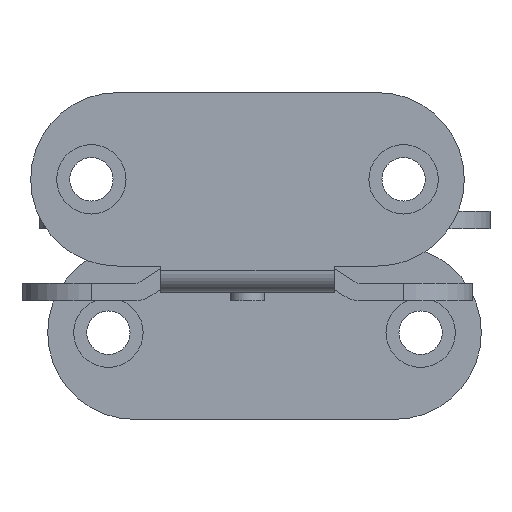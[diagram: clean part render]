
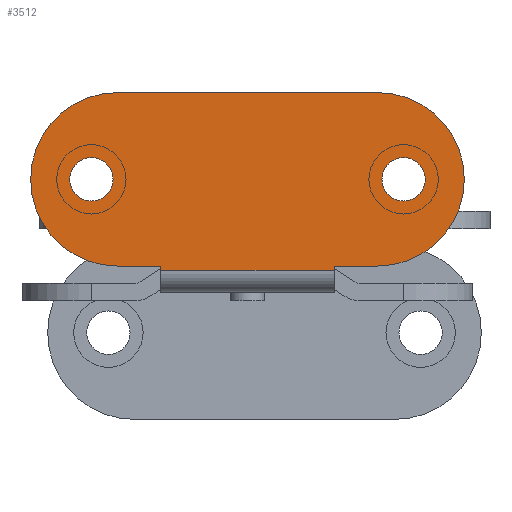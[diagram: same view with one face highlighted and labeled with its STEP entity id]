
A CAD part, left-side view. The second image highlights one B-rep face of the part: STEP entity #3512.
In plain terms, the highlighted planar face has unit normal (-1, 0, 0) as drawn and (0, 0, -1) by its records, which use the part's own axes.
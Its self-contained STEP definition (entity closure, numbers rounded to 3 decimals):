
#212=PLANE('',#3751);
#322=LINE('',#5267,#604);
#326=LINE('',#5279,#608);
#333=LINE('',#5307,#615);
#334=LINE('',#5310,#616);
#339=LINE('',#5319,#621);
#342=LINE('',#5333,#624);
#604=VECTOR('',#4155,20.);
#608=VECTOR('',#4167,0.5);
#615=VECTOR('',#4198,0.5);
#616=VECTOR('',#4201,5.);
#621=VECTOR('',#4208,5.);
#624=VECTOR('',#4225,30.);
#891=FACE_BOUND('',#1206,.T.);
#892=FACE_BOUND('',#1207,.T.);
#986=FACE_OUTER_BOUND('',#1205,.T.);
#1205=EDGE_LOOP('',(#2546,#2547,#2548,#2549,#2550,#2551,#2552,#2553));
#1206=EDGE_LOOP('',(#2554));
#1207=EDGE_LOOP('',(#2555));
#1484=CIRCLE('',#3733,2.5);
#1487=CIRCLE('',#3738,2.5);
#1488=CIRCLE('',#3744,10.);
#1490=CIRCLE('',#3747,10.);
#1669=VERTEX_POINT('',#5264);
#1670=VERTEX_POINT('',#5266);
#1674=VERTEX_POINT('',#5278);
#1678=VERTEX_POINT('',#5290);
#1681=VERTEX_POINT('',#5298);
#1683=VERTEX_POINT('',#5305);
#1684=VERTEX_POINT('',#5309);
#1687=VERTEX_POINT('',#5317);
#1688=VERTEX_POINT('',#5321);
#1690=VERTEX_POINT('',#5327);
#2008=EDGE_CURVE('',#1669,#1670,#322,.T.);
#2014=EDGE_CURVE('',#1670,#1674,#326,.T.);
#2020=EDGE_CURVE('',#1678,#1678,#1484,.T.);
#2023=EDGE_CURVE('',#1681,#1681,#1487,.T.);
#2027=EDGE_CURVE('',#1683,#1669,#333,.T.);
#2028=EDGE_CURVE('',#1674,#1684,#334,.T.);
#2033=EDGE_CURVE('',#1687,#1683,#339,.T.);
#2034=EDGE_CURVE('',#1684,#1688,#1488,.T.);
#2037=EDGE_CURVE('',#1690,#1687,#1490,.T.);
#2040=EDGE_CURVE('',#1688,#1690,#342,.T.);
#2546=ORIENTED_EDGE('',*,*,#2008,.F.);
#2547=ORIENTED_EDGE('',*,*,#2027,.F.);
#2548=ORIENTED_EDGE('',*,*,#2033,.F.);
#2549=ORIENTED_EDGE('',*,*,#2037,.F.);
#2550=ORIENTED_EDGE('',*,*,#2040,.F.);
#2551=ORIENTED_EDGE('',*,*,#2034,.F.);
#2552=ORIENTED_EDGE('',*,*,#2028,.F.);
#2553=ORIENTED_EDGE('',*,*,#2014,.F.);
#2554=ORIENTED_EDGE('',*,*,#2020,.T.);
#2555=ORIENTED_EDGE('',*,*,#2023,.T.);
#3512=ADVANCED_FACE('',(#986,#891,#892),#212,.F.);
#3733=AXIS2_PLACEMENT_3D('',#5291,#4179,#4180);
#3738=AXIS2_PLACEMENT_3D('',#5299,#4189,#4190);
#3744=AXIS2_PLACEMENT_3D('',#5322,#4211,#4212);
#3747=AXIS2_PLACEMENT_3D('',#5328,#4218,#4219);
#3751=AXIS2_PLACEMENT_3D('',#5336,#4229,#4230);
#4155=DIRECTION('',(-1.,0.,0.));
#4167=DIRECTION('',(0.,-1.,0.));
#4179=DIRECTION('center_axis',(0.,0.,1.));
#4180=DIRECTION('ref_axis',(1.,0.,0.));
#4189=DIRECTION('center_axis',(0.,0.,1.));
#4190=DIRECTION('ref_axis',(1.,0.,0.));
#4198=DIRECTION('',(0.,1.,0.));
#4201=DIRECTION('',(-1.,0.,0.));
#4208=DIRECTION('',(-1.,0.,0.));
#4211=DIRECTION('center_axis',(0.,0.,1.));
#4212=DIRECTION('ref_axis',(0.,1.,0.));
#4218=DIRECTION('center_axis',(0.,0.,1.));
#4219=DIRECTION('ref_axis',(0.,-1.,0.));
#4225=DIRECTION('',(1.,0.,0.));
#4229=DIRECTION('center_axis',(0.,0.,1.));
#4230=DIRECTION('ref_axis',(1.,0.,0.));
#5264=CARTESIAN_POINT('',(10.,10.5,0.));
#5266=CARTESIAN_POINT('',(-10.,10.5,0.));
#5267=CARTESIAN_POINT('',(0.,10.5,0.));
#5278=CARTESIAN_POINT('',(-10.,10.,0.));
#5279=CARTESIAN_POINT('',(-10.,10.,0.));
#5290=CARTESIAN_POINT('',(-20.5,0.,0.));
#5291=CARTESIAN_POINT('Origin',(-18.,0.,0.));
#5298=CARTESIAN_POINT('',(15.5,0.,0.));
#5299=CARTESIAN_POINT('Origin',(18.,0.,0.));
#5305=CARTESIAN_POINT('',(10.,10.,0.));
#5307=CARTESIAN_POINT('',(10.,10.,0.));
#5309=CARTESIAN_POINT('',(-15.,10.,0.));
#5310=CARTESIAN_POINT('',(15.,10.,0.));
#5317=CARTESIAN_POINT('',(15.,10.,0.));
#5319=CARTESIAN_POINT('',(15.,10.,0.));
#5321=CARTESIAN_POINT('',(-15.,-10.,0.));
#5322=CARTESIAN_POINT('Origin',(-15.,0.,0.));
#5327=CARTESIAN_POINT('',(15.,-10.,0.));
#5328=CARTESIAN_POINT('Origin',(15.,0.,0.));
#5333=CARTESIAN_POINT('',(-15.,-10.,0.));
#5336=CARTESIAN_POINT('Origin',(0.,0.,
0.));
